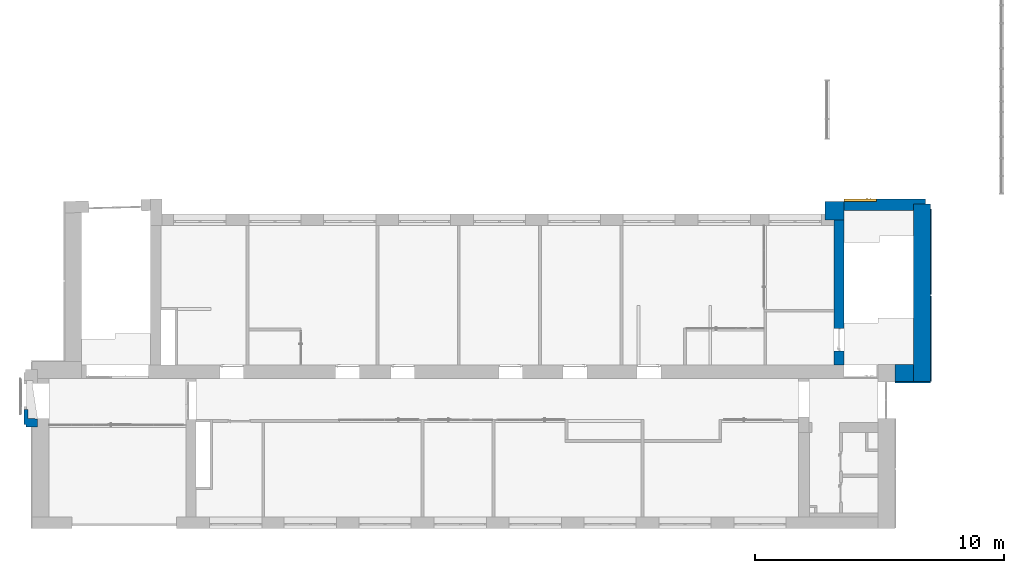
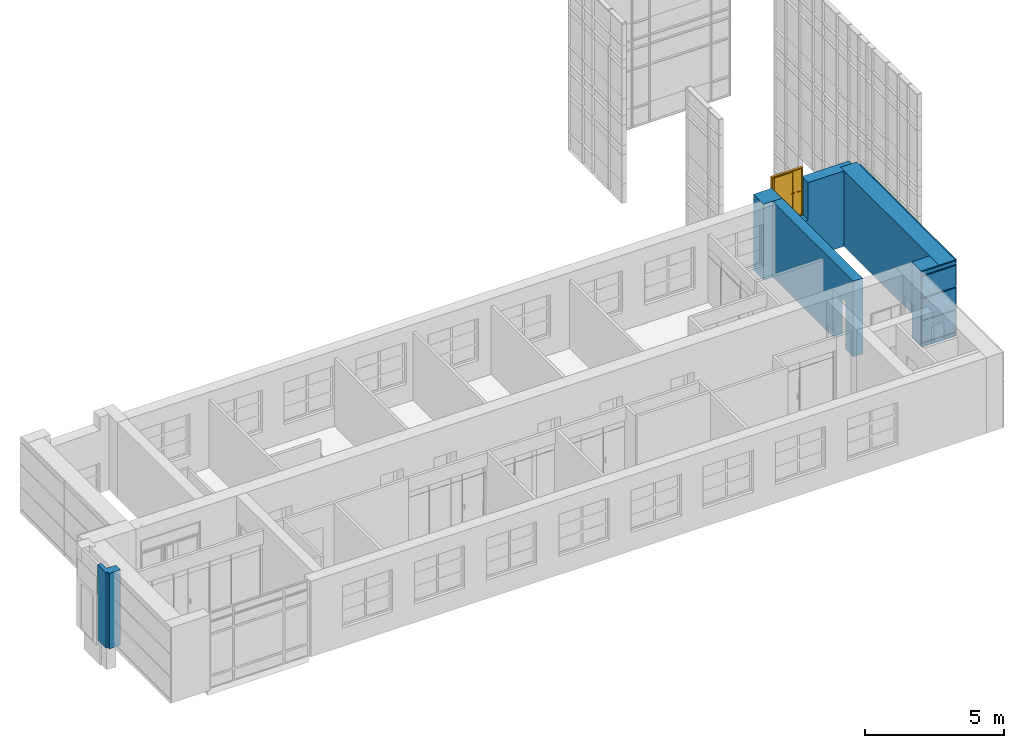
"""IFC2X3 building model written with IfcOpenShell, lengths in millimetres."""

from ifc_helpers import new_model, entity, si_unit, converted_unit, derived_unit, direction, frame, frame_2d, origin, origin_2d_with_axis, place, context, subcontext, project, spatial, polyline, rectangle, extrude, clip, bounded_halfspace, face_set, faceted_brep, surface_model, source, transform, mapped, material, material_list, layer, layer_set, layer_usage, type_object, type_shapes, element, fill, save


model = new_model("IFC2X3")

# Units and contexts
model_context = context("Model", 3, precision=0.01, world=origin(), true_north=direction((6.12303176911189e-17, 1.0)))
body_context = subcontext(model_context, "Body", "Model", "MODEL_VIEW")
ifc_project = project(units=[si_unit("LENGTHUNIT", "METRE", prefix="MILLI"), si_unit("AREAUNIT", "SQUARE_METRE"), si_unit("VOLUMEUNIT", "CUBIC_METRE"), converted_unit("PLANEANGLEUNIT", "DEGREE", entity("IfcRatioMeasure", 0.0174532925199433), si_unit("PLANEANGLEUNIT", "RADIAN"), dimensions=[0, 0, 0, 0, 0, 0, 0]), si_unit("MASSUNIT", "GRAM", prefix="KILO"), derived_unit("MASSDENSITYUNIT", [(si_unit("MASSUNIT", "GRAM", prefix="KILO"), 1), (si_unit("LENGTHUNIT", "METRE"), -3)]), si_unit("TIMEUNIT", "SECOND"), si_unit("FREQUENCYUNIT", "HERTZ"), si_unit("THERMODYNAMICTEMPERATUREUNIT", "DEGREE_CELSIUS"), derived_unit("THERMALTRANSMITTANCEUNIT", [(si_unit("MASSUNIT", "GRAM", prefix="KILO"), 1), (si_unit("THERMODYNAMICTEMPERATUREUNIT", "KELVIN"), -1), (si_unit("TIMEUNIT", "SECOND"), -3)]), derived_unit("VOLUMETRICFLOWRATEUNIT", [(si_unit("LENGTHUNIT", "METRE"), 3), (si_unit("TIMEUNIT", "SECOND"), -1)]), si_unit("ELECTRICCURRENTUNIT", "AMPERE"), si_unit("ELECTRICVOLTAGEUNIT", "VOLT"), si_unit("POWERUNIT", "WATT"), si_unit("FORCEUNIT", "NEWTON", prefix="KILO"), si_unit("ILLUMINANCEUNIT", "LUX"), si_unit("LUMINOUSFLUXUNIT", "LUMEN"), si_unit("LUMINOUSINTENSITYUNIT", "CANDELA"), derived_unit("USERDEFINED", [(si_unit("MASSUNIT", "GRAM", prefix="KILO"), -1), (si_unit("LENGTHUNIT", "METRE"), -2), (si_unit("TIMEUNIT", "SECOND"), 3), (si_unit("LUMINOUSFLUXUNIT", "LUMEN"), 1)]), derived_unit("LINEARVELOCITYUNIT", [(si_unit("LENGTHUNIT", "METRE"), 1), (si_unit("TIMEUNIT", "SECOND"), -1)]), si_unit("PRESSUREUNIT", "PASCAL"), derived_unit("USERDEFINED", [(si_unit("LENGTHUNIT", "METRE"), -2), (si_unit("MASSUNIT", "GRAM", prefix="KILO"), 1), (si_unit("TIMEUNIT", "SECOND"), -2)])], contexts=[model_context])

# Site, building, storey
site_placement = place(None, frame((-151.875543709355, 2715.0, 0.0)))
site = spatial("IfcSite", under=ifc_project, at=site_placement, Name="Surface", CompositionType="ELEMENT")
building_placement = place(site_placement, origin())
building = spatial("IfcBuilding", under=site, at=building_placement, CompositionType="ELEMENT")
storey_1_placement = place(building_placement, frame((0.0, 0.0, 6730.43000000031)))
storey_1 = spatial("IfcBuildingStorey", under=building, at=storey_1_placement, Name="3 korrus", CompositionType="ELEMENT", Elevation=6730.43000000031)

# Wall
ifc_material_1 = material(Name="Paint - Sand Beige")
wall_type_1 = type_object("IfcWallType", Name="SEIN - 006", PredefinedType="NOTDEFINED", material=ifc_material_1)
wall_1_placement = place(storey_1_placement, frame((-541.883383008, 4071.05734432, 0.00203353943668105), z_axis=(0.0, 0.0, 1.0), x_axis=(0.0, 1.0, 0.0)))
element("IfcWall", 1, at=wall_1_placement, inside=storey_1, type_object=wall_type_1, material=ifc_material_1, Name="SEIN - 006 125756:SEIN - 006 125756", ObjectType="SEIN - 006 125756:SEIN - 006 125756", context=body_context, shape_type="SurfaceModel", body=[
    surface_model("IfcFaceBasedSurfaceModel", [(99.9999990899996, -82.139787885, 3329.56796646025), (99.9999990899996, 0.0, 3329.56796646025), (100.00182932, 0.0, 0.0), (100.00182932, -82.139787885, 0.0), (99.9999990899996, -82.139787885, 3329.56796646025), (0.0, -82.139787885, 3329.56796646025), (0.0, -541.75892850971, 3329.56796646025), (318.92299153, -541.75892850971, 3329.56796646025), (341.8398406, -162.013561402, 3329.56796646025), (700.32644567, -162.013561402, 3329.56796646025), (700.32644567, 0.0, 3329.56796646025), (99.9999990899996, 0.0, 3329.56796646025), (99.9999990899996, 0.0, 3329.56796646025), (700.32644567, 0.0, 3329.56796646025), (700.32828135, 0.0, 0.0), (100.00182932, 0.0, 0.0), (0.00182932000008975, -82.139787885, 0.0), (0.00182932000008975, -541.758928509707, 0.0), (318.92299153, -541.758928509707, 0.0), (341.84167301, -162.013561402, 0.0), (700.32828135, -162.013561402, 0.0), (700.32828135, 0.0, 0.0), (100.00182932, 0.0, 0.0), (100.00182932, -82.139787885, 0.0), (0.0, -82.139787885, 3329.56796646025), (99.9999990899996, -82.139787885, 3329.56796646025), (100.00182932, -82.139787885, 0.0), (0.00182932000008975, -82.139787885, 0.0), (0.00182932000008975, -82.139787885, 0.0), (0.00182932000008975, -541.758928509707, 0.0), (0.0, -541.75892850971, 3329.56796646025), (0.0, -82.139787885, 3329.56796646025), (0.0, -541.75892850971, 3329.56796646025), (0.00182932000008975, -541.758928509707, 0.0), (318.92299153, -541.758928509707, 0.0), (318.92299153, -541.75892850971, 3329.56796646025), (341.841216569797, -162.013533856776, 0.0), (341.839384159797, -162.013533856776, 3329.56796646), (318.922535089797, -541.758900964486, 3329.56796646), (318.924360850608, -541.759011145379, 1.00490069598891e-09), (341.8398406, -162.013561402, 3329.56796646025), (341.84167301, -162.013561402, 0.0), (700.32828135, -162.013561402, 0.0), (700.32644567, -162.013561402, 3329.56796646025), (700.32644567, 0.0, 3329.56796646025), (700.32644567, -162.013561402, 3329.56796646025), (700.32828135, -162.013561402, 0.0), (700.32828135, 0.0, 0.0)], [face_set([[[0, 1, 2, 3]]]), face_set([[[4, 5, 6, 7, 8, 9, 10, 11]]]), face_set([[[12, 13, 14, 15]]]), face_set([[[16, 17, 18, 19, 20, 21, 22, 23]]]), face_set([[[24, 25, 26, 27]]]), face_set([[[28, 29, 30, 31]]]), face_set([[[32, 33, 34, 35]]]), face_set([[[36, 37, 38, 39]]]), face_set([[[40, 41, 42, 43]]]), face_set([[[44, 45, 46, 47]]])]),
])

# Wall, openings
ifc_material_2 = material(Name="Brick, Common")
ifc_layer_1 = layer(ifc_material_2, 750.0)
ifc_material_3 = material(Name="__Kips GN13_tava")
ifc_layer_2 = layer(ifc_material_3, 20.0)
ifc_layer_set_1 = layer_set([ifc_layer_1, ifc_layer_2], Name="Basic Wall:VS-1_770")
ifc_layer_usage_1 = layer_usage(ifc_layer_set_1, "AXIS2", "NEGATIVE", 385.0)
wall_type_2 = type_object("IfcWallType", Name="Basic Wall:VS-1_770", PredefinedType="STANDARD", material=ifc_layer_set_1)
wall_2_placement = place(storey_1_placement, frame((31987.6162682, 12380.0, 0.00203353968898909), z_axis=(0.0, 0.0, 1.0), x_axis=(0.0, 1.0, 0.0)))
wall_2 = element("IfcWallStandardCase", 2, at=wall_2_placement, inside=storey_1, type_object=wall_type_2, material=ifc_layer_usage_1, Name="SEIN - 003", ObjectType="Basic Wall:VS-1_770", context=body_context, shape_type="SweptSolid", body=[
    extrude(rectangle(XDim=732.99999999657, YDim=769.999999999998, at=frame_2d((366.499999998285, 0.0), x_axis=(-1.0, 0.0))), origin(), (0.0, 0.0, 1.0), 3329.56796646),
])
opening_1_placement = place(wall_2_placement, origin())
element("IfcOpeningElement", 3, at=opening_1_placement, cuts=wall_2, Name="SEIN - 003", ObjectType="Opening", context=body_context, shape_type="SweptSolid", body=[
    extrude(rectangle(XDim=2099.99999999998, YDim=459.999999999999, at=frame_2d((0.0, 0.0), x_axis=(0.0, 1.0))), frame((600.0, -1685.0, -716.868591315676), z_axis=(0.0, 1.0, 0.0), x_axis=(1.0, 0.0, 0.0)), (0.0, 0.0, 1.0), 1300.0),
])
opening_2_placement = place(wall_2_placement, origin())
element("IfcOpeningElement", 4, at=opening_2_placement, cuts=wall_2, Name="SEIN - 003", ObjectType="Opening", context=body_context, shape_type="SweptSolid", body=[
    extrude(rectangle(XDim=2099.99999999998, YDim=459.999999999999, at=frame_2d((0.0, 0.0), x_axis=(0.0, 1.0))), frame((600.0, -1685.0, 2739.56796645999), z_axis=(0.0, 1.0, 0.0), x_axis=(1.0, 0.0, 0.0)), (0.0, 0.0, 1.0), 1300.0),
])

ifc_layer_3 = layer(ifc_material_2, 440.0)
ifc_layer_4 = layer(ifc_material_3, 20.0)
ifc_layer_set_2 = layer_set([ifc_layer_3, ifc_layer_4], Name="Basic Wall:VS-1")
ifc_layer_usage_2 = layer_usage(ifc_layer_set_2, "AXIS2", "POSITIVE", -230.0)
wall_type_3 = type_object("IfcWallType", Name="Basic Wall:VS-1", PredefinedType="STANDARD", material=ifc_layer_set_2)
wall_3_placement = place(storey_1_placement, frame((35636.6162682, 12980.0, 0.00203353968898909), z_axis=(0.0, 0.0, 1.0), x_axis=(-1.0, 0.0, 0.0)))
wall_3 = element("IfcWallStandardCase", 5, at=wall_3_placement, inside=storey_1, type_object=wall_type_3, material=ifc_layer_usage_2, Name="SEIN - 003", ObjectType="Basic Wall:VS-1", context=body_context, shape_type="Clipping", body=[
    clip(clip(extrude(rectangle(XDim=3264.00000000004, YDim=459.999999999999, at=frame_2d((1632.00000000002, 0.0), x_axis=(-1.0, 0.0))), origin(), (0.0, 0.0, 1.0), 3329.56796646), bounded_halfspace(frame((470.0, -34.4999999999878, 0.0), z_axis=(1.0, 0.0, 0.0), x_axis=(0.0, 1.0, 0.0)), True, frame((470.0, -34.4999999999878, 0.0), z_axis=(1.0, 0.0, 0.0), x_axis=(0.0, 1.0, 0.0)), polyline([(0.0, 0.0), (264.499999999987, 0.0), (264.499999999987, 3329.56796646), (0.0, 3329.56796646), (0.0, 0.0)]))), bounded_halfspace(frame((470.0, -34.4999999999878, 3329.56796646), z_axis=(0.0, -1.0, 0.0), x_axis=(1.0, 0.0, 0.0)), True, frame((470.0, -34.4999999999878, 3329.56796646), z_axis=(0.0, -1.0, 0.0), x_axis=(1.0, 0.0, 0.0)), polyline([(0.0, 0.0), (-470.0, 0.0), (-470.0, -3329.56796646), (0.0, -3329.56796646), (0.0, 0.0)]))),
])
opening_3_placement = place(wall_3_placement, origin())
element("IfcOpeningElement", 6, at=opening_3_placement, cuts=wall_3, Name="SEIN - 003", ObjectType="Opening", context=body_context, shape_type="SweptSolid", body=[
    extrude(rectangle(XDim=1640.0, YDim=1174.99999999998, at=origin_2d_with_axis()), frame((2551.50000000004, -230.0, 2509.56796646), z_axis=(0.0, 1.0, 0.0), x_axis=(0.0, 0.0, -1.0)), (0.0, 0.0, 1.0), 459.999999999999),
])
opening_4_placement = place(wall_3_placement, origin())
element("IfcOpeningElement", 7, at=opening_4_placement, cuts=wall_3, Name="SEIN - 003", ObjectType="Opening", context=body_context, shape_type="SweptSolid", body=[
    extrude(rectangle(XDim=2099.99999999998, YDim=1300.0, at=origin_2d_with_axis()), frame((2614.0, -1294.0, -716.868591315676), z_axis=(0.0, 1.0, 0.0), x_axis=(0.0, 0.0, 1.0)), (0.0, 0.0, 1.0), 3048.0),
])
opening_5_placement = place(wall_3_placement, frame((3264.0, 230.0, 1689.56796646)))
opening_5 = element("IfcOpeningElement", 8, at=opening_5_placement, cuts=wall_3, Name="Kahepoolsed:SU-11:1", ObjectType="Opening", context=body_context, shape_type="SweptSolid", body=[
    extrude(rectangle(XDim=2099.99999999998, YDim=1300.0, at=frame_2d((1049.99999999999, 650.0), x_axis=(1.0, 0.0))), frame((0.0, 0.0, 0.0), z_axis=(0.0, -1.0, 0.0), x_axis=(0.0, 0.0, 1.0)), (0.0, 0.0, 1.0), 460.0),
])

# Storey
storey_2_placement = place(building_placement, frame((0.0, 0.0, 7670.0)))
storey_2 = spatial("IfcBuildingStorey", under=building, at=storey_2_placement, Name="uus 3 korrus", CompositionType="ELEMENT", Elevation=7670.00000000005)

# Door
ifc_material_4 = material(Name="_Alumiiniumprofiil - must")
ifc_material_5 = material(Name="__Uks_hele tamm")
ifc_material_6 = material(Name="EP Tavallinen lasi")
ifc_material_list_1 = material_list([ifc_material_4, ifc_material_5, ifc_material_6])
ifc_material_list_2 = material_list([ifc_material_4, ifc_material_5, ifc_material_6])
door_style = type_object("IfcDoorStyle", Name="SU-11", ConstructionType="NOTDEFINED", OperationType="FOLDING_TO_RIGHT", ParameterTakesPrecedence=False, Sizeable=False, material=ifc_material_list_2)
shared_shape = source(origin(), body_context, "Body", "Brep", [
    faceted_brep([(912.499999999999, 370.0, 1100.0), (817.499999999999, 370.0, 1100.0), (817.499999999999, 365.0, 1100.0), (937.499999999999, 365.0, 1100.0), (937.499999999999, 408.0, 1100.0), (912.499999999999, 408.0, 1100.0), (912.499999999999, 370.0, 1075.0), (912.499999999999, 408.0, 1075.0), (937.499999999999, 408.0, 1075.0), (937.499999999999, 365.0, 1075.0), (817.499999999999, 365.0, 1075.0), (817.499999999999, 370.0, 1075.0)], [[[0, 1, 2, 3, 4, 5]], [[6, 7, 8, 9, 10, 11]], [[5, 7, 6, 0]], [[4, 8, 7, 5]], [[3, 9, 8, 4]], [[2, 10, 9, 3]], [[1, 11, 10, 2]], [[0, 6, 11, 1]]]),
    faceted_brep([(900.0, 408.0, 1125.0), (950.0, 408.0, 1125.0), (950.0, 410.0, 1125.0), (900.0, 410.0, 1125.0), (900.0, 408.0, 1005.0), (900.0, 410.0, 1005.0), (950.0, 410.0, 1005.0), (950.0, 408.0, 1005.0)], [[[0, 1, 2, 3]], [[4, 5, 6, 7]], [[3, 5, 4, 0]], [[2, 6, 5, 3]], [[1, 7, 6, 2]], [[0, 4, 7, 1]]]),
    faceted_brep([(912.499999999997, 500.0, 1100.0), (912.499999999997, 462.0, 1100.0), (937.499999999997, 462.0, 1100.0), (937.499999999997, 505.0, 1100.0), (817.499999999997, 505.0, 1100.0), (817.499999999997, 500.0, 1100.0), (912.499999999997, 500.0, 1075.0), (817.499999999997, 500.0, 1075.0), (817.499999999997, 505.0, 1075.0), (937.499999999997, 505.0, 1075.0), (937.499999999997, 462.0, 1075.0), (912.499999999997, 462.0, 1075.0)], [[[0, 1, 2, 3, 4, 5]], [[6, 7, 8, 9, 10, 11]], [[1, 0, 6, 11]], [[2, 1, 11, 10]], [[3, 2, 10, 9]], [[4, 3, 9, 8]], [[5, 4, 8, 7]], [[0, 5, 7, 6]]]),
    faceted_brep([(900.0, 462.0, 1125.0), (900.0, 460.0, 1125.0), (950.0, 460.0, 1125.0), (950.0, 462.0, 1125.0), (900.0, 462.0, 1005.0), (950.0, 462.0, 1005.0), (950.0, 460.0, 1005.0), (900.0, 460.0, 1005.0)], [[[0, 1, 2, 3]], [[4, 5, 6, 7]], [[1, 0, 4, 7]], [[2, 1, 7, 6]], [[3, 2, 6, 5]], [[0, 3, 5, 4]]]),
    faceted_brep([(1087.5, 370.0, 1100.0), (1087.5, 408.0, 1100.0), (1062.5, 408.0, 1100.0), (1062.5, 365.0, 1100.0), (1182.5, 365.0, 1100.0), (1182.5, 370.0, 1100.0), (1087.5, 370.0, 1075.0), (1182.5, 370.0, 1075.0), (1182.5, 365.0, 1075.0), (1062.5, 365.0, 1075.0), (1062.5, 408.0, 1075.0), (1087.5, 408.0, 1075.0)], [[[0, 1, 2, 3, 4, 5]], [[6, 7, 8, 9, 10, 11]], [[1, 0, 6, 11]], [[2, 1, 11, 10]], [[3, 2, 10, 9]], [[4, 3, 9, 8]], [[5, 4, 8, 7]], [[0, 5, 7, 6]]]),
    faceted_brep([(1100.0, 408.0, 1125.0), (1100.0, 410.0, 1125.0), (1050.0, 410.0, 1125.0), (1050.0, 408.0, 1125.0), (1100.0, 408.0, 1005.0), (1050.0, 408.0, 1005.0), (1050.0, 410.0, 1005.0), (1100.0, 410.0, 1005.0)], [[[0, 1, 2, 3]], [[4, 5, 6, 7]], [[1, 0, 4, 7]], [[2, 1, 7, 6]], [[3, 2, 6, 5]], [[0, 3, 5, 4]]]),
    faceted_brep([(1087.5, 500.0, 1100.0), (1182.5, 500.0, 1100.0), (1182.5, 505.0, 1100.0), (1062.5, 505.0, 1100.0), (1062.5, 462.0, 1100.0), (1087.5, 462.0, 1100.0), (1087.5, 500.0, 1075.0), (1087.5, 462.0, 1075.0), (1062.5, 462.0, 1075.0), (1062.5, 505.0, 1075.0), (1182.5, 505.0, 1075.0), (1182.5, 500.0, 1075.0)], [[[0, 1, 2, 3, 4, 5]], [[6, 7, 8, 9, 10, 11]], [[5, 7, 6, 0]], [[4, 8, 7, 5]], [[3, 9, 8, 4]], [[2, 10, 9, 3]], [[1, 11, 10, 2]], [[0, 6, 11, 1]]]),
    faceted_brep([(1100.0, 462.0, 1125.0), (1050.0, 462.0, 1125.0), (1050.0, 460.0, 1125.0), (1100.0, 460.0, 1125.0), (1100.0, 462.0, 1005.0), (1100.0, 460.0, 1005.0), (1050.0, 460.0, 1005.0), (1050.0, 462.0, 1005.0)], [[[0, 1, 2, 3]], [[4, 5, 6, 7]], [[3, 5, 4, 0]], [[2, 6, 5, 3]], [[1, 7, 6, 2]], [[0, 4, 7, 1]]]),
    faceted_brep([(1260.0, 370.0, 30.0), (1260.0, 370.0, 0.0), (1260.0, 410.0, 0.0), (1260.0, 410.0, 20.0), (1260.0, 410.0, 30.0), (40.0, 370.0, 30.0), (40.0, 410.0, 30.0), (40.0, 410.0, 20.0), (40.0, 410.0, 0.0), (40.0, 370.0, 0.0), (25.0, 410.0, 0.0), (25.0, 460.0, 0.0), (1275.0, 460.0, 0.0), (1275.0, 410.0, 0.0), (1275.0, 460.0, 20.0), (1275.0, 410.0, 20.0), (25.0, 460.0, 20.0), (25.0, 410.0, 20.0)], [[[0, 1, 2, 3, 4]], [[5, 6, 7, 8, 9]], [[1, 0, 5, 9]], [[2, 1, 9, 8, 10, 11, 12, 13]], [[6, 4, 3, 7]], [[0, 4, 6, 5]], [[14, 15, 13, 12]], [[16, 11, 10, 17]], [[15, 14, 16, 17, 7, 3]], [[13, 15, 3, 2]], [[14, 12, 11, 16]], [[17, 10, 8, 7]]]),
    faceted_brep([(1300.0, 370.0, 0.0), (1260.0, 370.0, 0.0), (1260.0, 410.0, 0.0), (1275.0, 410.0, 0.0), (1275.0, 460.0, 0.0), (1300.0, 460.0, 0.0), (1300.0, 370.0, 2100.0), (0.0, 370.0, 2100.0), (0.0, 370.0, 0.0), (40.0, 370.0, 0.0), (40.0, 370.0, 2060.0), (1260.0, 370.0, 2060.0), (1260.0, 410.0, 2060.0), (40.0, 410.0, 2060.0), (40.0, 410.0, 0.0), (25.0, 410.0, 0.0), (25.0, 410.0, 2075.0), (1275.0, 410.0, 2075.0), (1275.0, 460.0, 2075.0), (25.0, 460.0, 2075.0), (25.0, 460.0, 0.0), (0.0, 460.0, 0.0), (0.0, 460.0, 2100.0), (1300.0, 460.0, 2100.0)], [[[0, 1, 2, 3, 4, 5]], [[1, 0, 6, 7, 8, 9, 10, 11]], [[2, 1, 11, 12]], [[3, 2, 12, 13, 14, 15, 16, 17]], [[4, 3, 17, 18]], [[5, 4, 18, 19, 20, 21, 22, 23]], [[0, 5, 23, 6]], [[8, 7, 22, 21]], [[9, 8, 21, 20, 15, 14]], [[10, 9, 14, 13]], [[16, 15, 20, 19]], [[11, 10, 13, 12]], [[17, 16, 19, 18]], [[7, 6, 23, 22]]]),
    faceted_brep([(1149.0, 460.0, 2000.0), (1149.0, 410.0, 2000.0), (1149.0, 410.0, 1990.0), (1149.0, 460.0, 1990.0), (1150.0, 410.0, 1990.0), (1150.0, 460.0, 1990.0), (1150.0, 410.0, 2000.0), (1150.0, 460.0, 2000.0), (1275.0, 410.0, 2075.0), (1000.0, 410.0, 2075.0), (1000.0, 410.0, 20.0), (1275.0, 410.0, 20.0), (1275.0, 460.0, 2075.0), (1275.0, 460.0, 20.0), (1000.0, 460.0, 20.0), (1000.0, 460.0, 2075.0)], [[[0, 1, 2, 3]], [[3, 2, 4, 5]], [[5, 4, 6, 7]], [[1, 0, 7, 6]], [[2, 1, 6, 4], [8, 9, 10, 11]], [[0, 3, 5, 7], [12, 13, 14, 15]], [[9, 8, 12, 15]], [[10, 9, 15, 14]], [[11, 10, 14, 13]], [[8, 11, 13, 12]]], outer=[[True], [True], [True], [True], [False, True], [False, True], [True], [True], [True], [True]]),
    faceted_brep([(125.0, 425.0, 350.0), (900.0, 425.0, 350.0), (900.0, 425.0, 2000.0), (125.0, 425.0, 2000.0), (125.0, 445.0, 350.0), (125.0, 445.0, 2000.0), (900.0, 445.0, 2000.0), (900.0, 445.0, 350.0)], [[[0, 1, 2, 3]], [[4, 5, 6, 7]], [[1, 0, 4, 7]], [[2, 1, 7, 6]], [[3, 2, 6, 5]], [[0, 3, 5, 4]]]),
    faceted_brep([(1000.0, 410.0, 2075.0), (25.0, 410.0, 2075.0), (25.0, 410.0, 20.0), (1000.0, 410.0, 20.0), (125.0, 410.0, 350.0), (125.0, 410.0, 2000.0), (900.0, 410.0, 2000.0), (900.0, 410.0, 350.0), (1000.0, 460.0, 2075.0), (1000.0, 460.0, 20.0), (25.0, 460.0, 20.0), (25.0, 460.0, 2075.0), (125.0, 460.0, 2000.0), (125.0, 460.0, 350.0), (900.0, 460.0, 350.0), (900.0, 460.0, 2000.0)], [[[0, 1, 2, 3], [4, 5, 6, 7]], [[8, 9, 10, 11], [12, 13, 14, 15]], [[1, 0, 8, 11]], [[2, 1, 11, 10]], [[3, 2, 10, 9]], [[0, 3, 9, 8]], [[12, 5, 4, 13]], [[13, 4, 7, 14]], [[14, 7, 6, 15]], [[5, 12, 15, 6]]]),
])
type_shapes(door_style, [shared_shape])
door_placement = place(opening_5_placement, frame((0.0, 0.0, 0.0), z_axis=(0.0, 0.0, 1.0), x_axis=(-1.0, 0.0, 0.0)))
door = element("IfcDoor", 9, at=door_placement, inside=storey_2, type_object=door_style, material=ifc_material_list_1, Name="Kahepoolsed:SU-11", ObjectType="SU-11", OverallHeight=2099.99999999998, OverallWidth=1300.0, context=body_context, shape_type="MappedRepresentation", body=[
    mapped(shared_shape, transform((0.0, 0.0, 0.0), scale=1.0)),
])

fill(opening_5, door)

# Walls
ifc_material_7 = material(Name="__Tuuletõkkeplaat")
ifc_layer_5 = layer(ifc_material_7, 9.0)
ifc_material_8 = material(Name="__Soojustus EPS")
ifc_layer_6 = layer(ifc_material_8, 200.0)
ifc_layer_7 = layer(ifc_material_2, 450.0)
ifc_layer_8 = layer(ifc_material_3, 20.0)
ifc_layer_set_3 = layer_set([ifc_layer_5, ifc_layer_6, ifc_layer_7, ifc_layer_8], Name="Basic Wall:VS-2_olemasolev sein fassaadikassettidega")
ifc_layer_usage_3 = layer_usage(ifc_layer_set_3, "AXIS2", "POSITIVE", -339.5)
wall_type_4 = type_object("IfcWallType", Name="Basic Wall:VS-2_olemasolev sein fassaadikassettidega", PredefinedType="STANDARD", material=ifc_layer_set_3)
wall_4_placement = place(storey_1_placement, frame((35506.1162682, 5891.0, 0.00203353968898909), z_axis=(0.0, 0.0, 1.0), x_axis=(0.0, 1.0, 0.0)))
element("IfcWallStandardCase", 10, at=wall_4_placement, inside=storey_1, type_object=wall_type_4, material=ifc_layer_usage_3, Name="SEIN - 002", ObjectType="Basic Wall:VS-2_olemasolev sein fassaadikassettidega", context=body_context, shape_type="SweptSolid", body=[
    extrude(rectangle(XDim=7123.5, YDim=679.000000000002, at=frame_2d((3561.75, 0.0), x_axis=(-1.0, 0.0))), origin(), (0.0, 0.0, 1.0), 3329.56796646),
])
ifc_layer_usage_4 = layer_usage(ifc_layer_set_3, "AXIS2", "POSITIVE", -339.5)
wall_5_placement = place(storey_1_placement, frame((34420.6162682, 6230.5, 0.00203353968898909)))
element("IfcWallStandardCase", 11, at=wall_5_placement, inside=storey_1, type_object=wall_type_4, material=ifc_layer_usage_4, Name="SEIN - 003", ObjectType="Basic Wall:VS-2_olemasolev sein fassaadikassettidega", context=body_context, shape_type="SweptSolid", body=[
    extrude(rectangle(XDim=745.999999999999, YDim=678.999999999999, at=frame_2d((373.0, 0.0), x_axis=(-1.0, 0.0))), origin(), (0.0, 0.0, 1.0), 3329.56796646),
])

# Wall, openings
ifc_material_9 = material(Name="__Hall krohv")
ifc_layer_9 = layer(ifc_material_9, 10.0)
ifc_material_10 = material(Name="Tellis")
ifc_layer_10 = layer(ifc_material_10, 380.0)
ifc_layer_11 = layer(ifc_material_9, 10.0)
ifc_layer_set_4 = layer_set([ifc_layer_9, ifc_layer_10, ifc_layer_11], Name="Basic Wall:SS-01_ol.olev tellissein400")
ifc_layer_usage_5 = layer_usage(ifc_layer_set_4, "AXIS2", "NEGATIVE", 200.0)
wall_type_5 = type_object("IfcWallType", Name="Basic Wall:SS-01_ol.olev tellissein400", PredefinedType="STANDARD", material=ifc_layer_set_4)
wall_6_placement = place(storey_1_placement, frame((32172.6162682, 6560.0, 0.00203353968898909), z_axis=(0.0, 0.0, 1.0), x_axis=(0.0, 1.0, 0.0)))
wall_6 = element("IfcWallStandardCase", 12, at=wall_6_placement, inside=storey_1, type_object=wall_type_5, material=ifc_layer_usage_5, Name="SEIN - 003", ObjectType="Basic Wall:SS-01_ol.olev tellissein400", context=body_context, shape_type="SweptSolid", body=[
    extrude(rectangle(XDim=5820.0, YDim=400.000000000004, at=frame_2d((2910.0, 0.0), x_axis=(-1.0, 0.0))), origin(), (0.0, 0.0, 1.0), 3329.56796646),
])
opening_6_placement = place(wall_6_placement, origin())
element("IfcOpeningElement", 13, at=opening_6_placement, cuts=wall_6, Name="SEIN - 003", ObjectType="Opening", context=body_context, shape_type="SweptSolid", body=[
    extrude(rectangle(XDim=2099.99999999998, YDim=880.0, at=frame_2d((1.02318153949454e-12, -5.40012479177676e-13), x_axis=(1.0, 0.0))), frame((1001.1202049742, -200.0, 1049.9979664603), z_axis=(0.0, 1.0, 0.0), x_axis=(0.0, 0.0, -1.0)), (0.0, 0.0, 1.0), 400.000000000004),
])
opening_7_placement = place(wall_6_placement, frame((550.150194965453, -200.0, -0.00203353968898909)))
element("IfcOpeningElement", 14, at=opening_7_placement, cuts=wall_6, Name="Ühepoolsed:SU-10:1", ObjectType="Opening", context=body_context, shape_type="SweptSolid", body=[
    extrude(rectangle(XDim=2099.99999999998, YDim=900.0, at=frame_2d((1049.99999999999, 450.0), x_axis=(1.0, 0.0))), frame((0.0, 0.0, 0.0), z_axis=(0.0, 1.0, 0.0), x_axis=(0.0, 0.0, 1.0)), (0.0, 0.0, 1.0), 400.0),
])

# Walls
ifc_material_11 = material(Name="Steel/Aluminium")
wall_type_6 = type_object("IfcWallType", Name="fassaad6.1:fassaad6.1", PredefinedType="NOTDEFINED", material=ifc_material_11)
wall_7_placement = place(storey_1_placement, frame((34420.6162682, 5841.0, 0.0)))
element("IfcWall", 15, at=wall_7_placement, inside=storey_1, type_object=wall_type_6, material=ifc_material_11, Name="fassaad6.1:fassaad6.1", ObjectType="fassaad6.1:fassaad6.1", context=body_context, shape_type="SweptSolid", body=[
    extrude(rectangle(XDim=49.9999999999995, YDim=1425.0, at=frame_2d((0.0, -4.32009983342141e-12), x_axis=(1.0, 0.0))), frame((712.499999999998, 25.0, 0.0), z_axis=(0.0, 0.0, 1.0), x_axis=(0.0, 1.0, 0.0)), (0.0, 0.0, 1.0), 159.115269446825),
    extrude(rectangle(XDim=49.9999999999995, YDim=1425.0, at=frame_2d((0.0, -4.32009983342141e-12), x_axis=(1.0, 0.0))), frame((712.499999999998, 25.0, 209.115269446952), z_axis=(0.0, 0.0, 1.0), x_axis=(0.0, 1.0, 0.0)), (0.0, 0.0, 1.0), 934.999999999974),
    extrude(rectangle(XDim=49.9999999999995, YDim=1425.0, at=frame_2d((5.41788836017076e-13, -2.1600499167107e-12), x_axis=(1.0, 0.0))), frame((712.499999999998, 25.0, 1194.11526944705), z_axis=(0.0, 0.0, 1.0), x_axis=(0.0, 1.0, 0.0)), (0.0, 0.0, 1.0), 934.999999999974),
    extrude(rectangle(XDim=49.9999999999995, YDim=1425.0, at=frame_2d((0.0, 2.1600499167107e-12), x_axis=(1.0, 0.0))), frame((712.500000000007, 25.0, 3164.11526944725), z_axis=(0.0, 0.0, 1.0), x_axis=(0.0, 1.0, 0.0)), (0.0, 0.0, 1.0), 165.884730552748),
    extrude(rectangle(XDim=49.9999999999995, YDim=1425.00000000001, at=frame_2d((5.40012479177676e-13, -2.1600499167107e-12), x_axis=(1.0, 0.0))), frame((712.500000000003, 25.0, 2179.11526944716), z_axis=(0.0, 0.0, 1.0), x_axis=(0.0, 1.0, 0.0)), (0.0, 0.0, 1.0), 934.999999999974),
])
wall_type_7 = type_object("IfcWallType", Name="fassaad5.1:fassaad5.1", PredefinedType="NOTDEFINED", material=ifc_material_11)
wall_8_placement = place(storey_1_placement, frame((35845.6162682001, 5891.0, 0.00203353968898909), z_axis=(0.0, 0.0, 1.0), x_axis=(0.0, 1.0, 0.0)))
element("IfcWall", 16, at=wall_8_placement, inside=storey_1, type_object=wall_type_7, material=ifc_material_11, Name="fassaad5.1:fassaad5.1", ObjectType="fassaad5.1:fassaad5.1", context=body_context, shape_type="SweptSolid", body=[
    extrude(rectangle(XDim=3435.0, YDim=50.0000000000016, at=origin_2d_with_axis()), frame((5202.5, -25.0, 0.0)), (0.0, 0.0, 1.0), 158.99999999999),
    extrude(rectangle(XDim=3435.0, YDim=50.0000000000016, at=frame_2d((-5.6843418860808e-13, -2.16715534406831e-12), x_axis=(1.0, 0.0))), frame((1717.5, -25.0, 0.0)), (0.0, 0.0, 1.0), 158.99999999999),
    extrude(rectangle(XDim=3434.99999999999, YDim=50.0000000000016, at=origin_2d_with_axis()), frame((1717.5, -25.0, 209.0)), (0.0, 0.0, 1.0), 934.999999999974),
    extrude(rectangle(XDim=3435.00000000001, YDim=50.0000000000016, at=frame_2d((0.0, 2.16537898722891e-12), x_axis=(1.0, 0.0))), frame((5202.5, -25.0, 209.0)), (0.0, 0.0, 1.0), 934.999999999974),
    extrude(rectangle(XDim=3434.99999999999, YDim=50.0000000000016, at=frame_2d((0.0, 2.16715534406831e-12), x_axis=(1.0, 0.0))), frame((1717.5, -25.0, 3164.0)), (0.0, 0.0, 1.0), 165.999999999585),
    extrude(rectangle(XDim=3435.0, YDim=50.0000000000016, at=frame_2d((-5.6843418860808e-13, -2.16715534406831e-12), x_axis=(1.0, 0.0))), frame((1717.5, -25.0, 2179.0)), (0.0, 0.0, 1.0), 934.999999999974),
    extrude(rectangle(XDim=3435.00000000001, YDim=50.0000000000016, at=frame_2d((-5.6843418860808e-13, 0.0), x_axis=(1.0, 0.0))), frame((5202.5, -25.0, 3164.0)), (0.0, 0.0, 1.0), 165.999999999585),
    extrude(rectangle(XDim=3435.00000000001, YDim=50.0000000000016, at=frame_2d((0.0, -4.33075797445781e-12), x_axis=(1.0, 0.0))), frame((5202.5, -25.0, 2179.0)), (0.0, 0.0, 1.0), 934.999999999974),
    extrude(rectangle(XDim=3434.99999999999, YDim=50.0000000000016, at=origin_2d_with_axis()), frame((1717.5, -25.0, 1194.0)), (0.0, 0.0, 1.0), 934.999999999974),
    extrude(rectangle(XDim=3435.00000000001, YDim=50.0000000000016, at=frame_2d((1.02318153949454e-12, -6.49613696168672e-12), x_axis=(1.0, 0.0))), frame((5202.5, -25.0, 1194.0)), (0.0, 0.0, 1.0), 934.999999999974),
])

save(model, "model.ifc")
